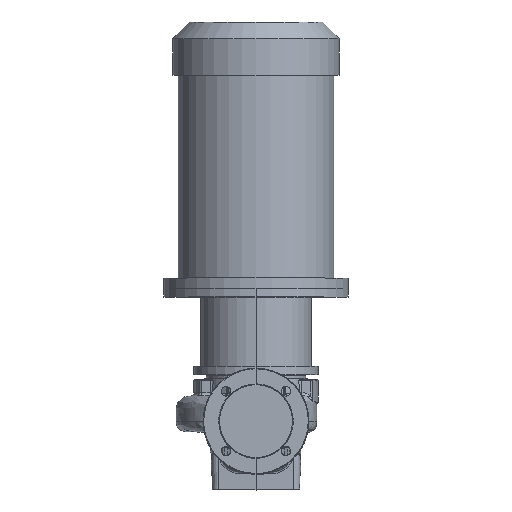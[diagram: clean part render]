
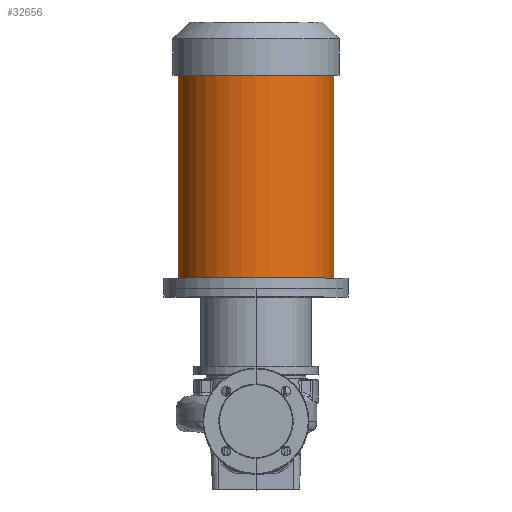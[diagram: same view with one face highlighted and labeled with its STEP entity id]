
A CAD part, top view. The second image highlights one B-rep face of the part: STEP entity #32656.
In plain terms, the highlighted cylindrical face has radius 147.5 mm (diameter 295 mm), a partial arc.
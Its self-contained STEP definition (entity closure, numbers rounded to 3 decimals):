
#1930 = DIRECTION ( 'NONE',  ( -1., 0., 0. ) ) ;
#2058 = VECTOR ( 'NONE', #55079, 1000. ) ;
#2835 = CIRCLE ( 'NONE', #28498, 147.5 ) ;
#3444 = VERTEX_POINT ( 'NONE', #5505 ) ;
#5505 = CARTESIAN_POINT ( 'NONE',  ( -147.5, 271.3, 0. ) ) ;
#8355 = EDGE_CURVE ( 'NONE', #43913, #3444, #19452, .T. ) ;
#12973 = DIRECTION ( 'NONE',  ( 0., -1., 0. ) ) ;
#17652 = CARTESIAN_POINT ( 'NONE',  ( 0., 655.3, 0. ) ) ;
#18079 = CARTESIAN_POINT ( 'NONE',  ( 147.5, 655.3, 0. ) ) ;
#18479 = EDGE_CURVE ( 'NONE', #34768, #46950, #2835, .T. ) ;
#19452 = CIRCLE ( 'NONE', #58962, 147.5 ) ;
#20378 = CARTESIAN_POINT ( 'NONE',  ( 0., 251.3, 0. ) ) ;
#21564 = CARTESIAN_POINT ( 'NONE',  ( 147.5, 251.3, 0. ) ) ;
#23541 = ORIENTED_EDGE ( 'NONE', *, *, #55689, .F. ) ;
#24270 = EDGE_LOOP ( 'NONE', ( #23541, #26865, #27524, #30936 ) ) ;
#25403 = CARTESIAN_POINT ( 'NONE',  ( -147.5, 655.3, 0. ) ) ;
#25990 = DIRECTION ( 'NONE',  ( 0., -1., 0. ) ) ;
#26649 = CARTESIAN_POINT ( 'NONE',  ( 0., 271.3, 0. ) ) ;
#26865 = ORIENTED_EDGE ( 'NONE', *, *, #18479, .T. ) ;
#27127 = AXIS2_PLACEMENT_3D ( 'NONE', #20378, #37045, #56227 ) ;
#27524 = ORIENTED_EDGE ( 'NONE', *, *, #33377, .T. ) ;
#28498 = AXIS2_PLACEMENT_3D ( 'NONE', #17652, #12973, #51605 ) ;
#30897 = DIRECTION ( 'NONE',  ( 0., -1., 0. ) ) ;
#30936 = ORIENTED_EDGE ( 'NONE', *, *, #8355, .F. ) ;
#31546 = CYLINDRICAL_SURFACE ( 'NONE', #27127, 147.5 ) ;
#32656 = ADVANCED_FACE ( 'NONE', ( #62500 ), #31546, .T. ) ;
#33377 = EDGE_CURVE ( 'NONE', #46950, #3444, #40667, .T. ) ;
#34768 = VERTEX_POINT ( 'NONE', #18079 ) ;
#36821 = LINE ( 'NONE', #21564, #44476 ) ;
#37045 = DIRECTION ( 'NONE',  ( 0., -1., 0. ) ) ;
#40667 = LINE ( 'NONE', #45405, #2058 ) ;
#43913 = VERTEX_POINT ( 'NONE', #58789 ) ;
#44476 = VECTOR ( 'NONE', #25990, 1000. ) ;
#45405 = CARTESIAN_POINT ( 'NONE',  ( -147.5, 251.3, 0. ) ) ;
#46950 = VERTEX_POINT ( 'NONE', #25403 ) ;
#51605 = DIRECTION ( 'NONE',  ( -1., 0., 0. ) ) ;
#55079 = DIRECTION ( 'NONE',  ( 0., -1., 0. ) ) ;
#55689 = EDGE_CURVE ( 'NONE', #34768, #43913, #36821, .T. ) ;
#56227 = DIRECTION ( 'NONE',  ( -1., 0., 0. ) ) ;
#58789 = CARTESIAN_POINT ( 'NONE',  ( 147.5, 271.3, 0. ) ) ;
#58962 = AXIS2_PLACEMENT_3D ( 'NONE', #26649, #30897, #1930 ) ;
#62500 = FACE_OUTER_BOUND ( 'NONE', #24270, .T. ) ;
